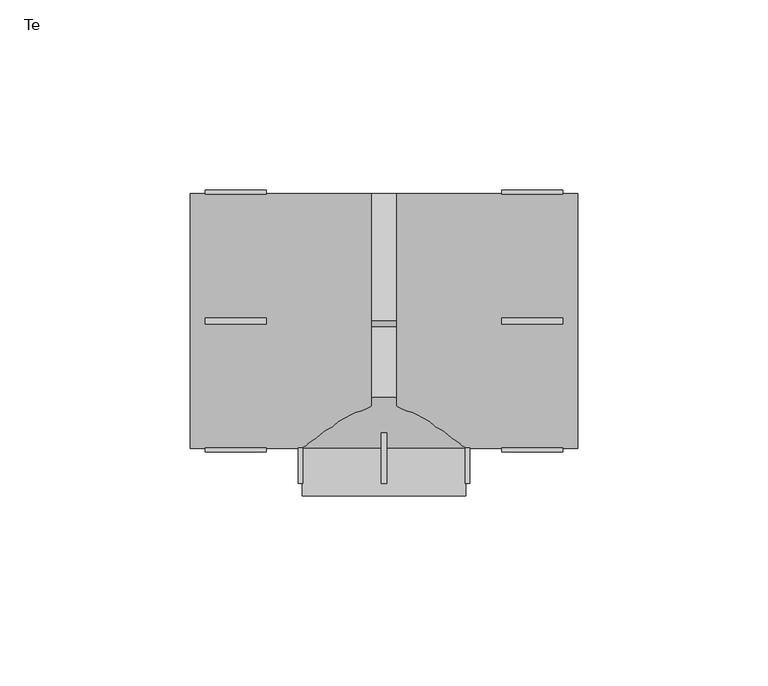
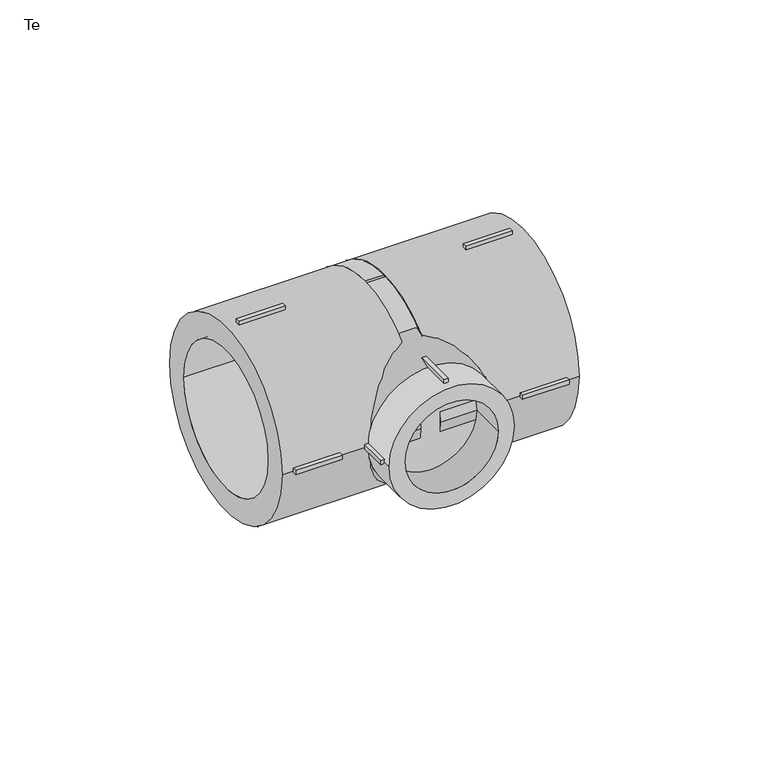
"""IFC4 building model written with IfcOpenShell, lengths in millimetres: pipe fitting geometry, EGB_VASEN_ PPR_Te WXR300_Te reducida WXR310 : Te."""

from ifc_helpers import new_model, si_unit, point, frame, origin, origin_2d, place, context, project, spatial, polyline, circle_curve, trimmed, segment, composite_curve, outline, extrude, source, transform, mapped, element, save
from ifc_brep_helpers import plane_surface, revolved_surface, advanced_brep


def te_cc820296(model_context):
    return source(origin(), model_context, "Body", "SolidModel", [
        extrude(outline(polyline([(-0.75, -29.5), (0.75, -29.5), (0.75, -42.7), (-0.75, -42.7), (-0.75, -29.5)])), frame((0.0, 0.0, 20.5), z_axis=(0.0, 0.0, 1.0), x_axis=(1.0, 0.0, 0.0)), (0.0, 0.0, 1.0), 2.0),
        extrude(outline(polyline([(-0.75, -29.5), (0.75, -29.5), (0.75, -42.7), (-0.75, -42.7), (-0.75, -29.5)])), frame((0.0, 0.0, -22.5), z_axis=(0.0, 0.0, 1.0), x_axis=(1.0, 0.0, 0.0)), (0.0, 0.0, 1.0), 2.0),
        extrude(outline(polyline([(20.5, -29.5), (22.5, -29.5), (22.5, -42.7), (20.5, -42.7), (20.5, -29.5)])), frame((0.0, 0.0, -0.75), z_axis=(0.0, 0.0, 1.0), x_axis=(1.0, 0.0, 0.0)), (0.0, 0.0, 1.0), 1.5),
        extrude(outline(polyline([(-22.5, -29.5), (-20.5, -29.5), (-20.5, -42.7), (-22.5, -42.7), (-22.5, -29.5)])), frame((0.0, 0.0, -0.75), z_axis=(0.0, 0.0, 1.0), x_axis=(1.0, 0.0, 0.0)), (0.0, 0.0, 1.0), 1.5),
        extrude(outline(polyline([(31.0, -0.75), (31.0, 0.75), (47.0, 0.75), (47.0, -0.75), (31.0, -0.75)])), frame((0.0, 0.0, 32.5), z_axis=(0.0, 0.0, 1.0), x_axis=(1.0, 0.0, 0.0)), (0.0, 0.0, 1.0), 2.0),
        extrude(outline(polyline([(31.0, -0.75), (31.0, 0.75), (47.0, 0.75), (47.0, -0.75), (31.0, -0.75)])), frame((0.0, 0.0, -34.5), z_axis=(0.0, 0.0, 1.0), x_axis=(1.0, 0.0, 0.0)), (0.0, 0.0, 1.0), 2.0),
        extrude(outline(polyline([(31.0, 32.5), (31.0, 34.5), (47.0, 34.5), (47.0, 32.5), (31.0, 32.5)])), frame((0.0, 0.0, -0.75), z_axis=(0.0, 0.0, 1.0), x_axis=(1.0, 0.0, 0.0)), (0.0, 0.0, 1.0), 1.5),
        extrude(outline(polyline([(31.0, -34.5), (31.0, -32.5), (47.0, -32.5), (47.0, -34.5), (31.0, -34.5)])), frame((0.0, 0.0, -0.75), z_axis=(0.0, 0.0, 1.0), x_axis=(1.0, 0.0, 0.0)), (0.0, 0.0, 1.0), 1.5),
        extrude(outline(polyline([(-31.0, 0.75), (-31.0, -0.75), (-47.0, -0.75), (-47.0, 0.75), (-31.0, 0.75)])), frame((0.0, 0.0, 32.5), z_axis=(0.0, 0.0, 1.0), x_axis=(1.0, 0.0, 0.0)), (0.0, 0.0, 1.0), 2.0),
        extrude(outline(polyline([(-31.0, 0.75), (-31.0, -0.75), (-47.0, -0.75), (-47.0, 0.75), (-31.0, 0.75)])), frame((0.0, 0.0, -34.5), z_axis=(0.0, 0.0, 1.0), x_axis=(1.0, 0.0, 0.0)), (0.0, 0.0, 1.0), 2.0),
        extrude(outline(polyline([(-31.0, 34.5), (-31.0, 32.5), (-47.0, 32.5), (-47.0, 34.5), (-31.0, 34.5)])), frame((0.0, 0.0, -0.75), z_axis=(0.0, 0.0, 1.0), x_axis=(1.0, 0.0, 0.0)), (0.0, 0.0, 1.0), 1.5),
        extrude(outline(polyline([(-31.0, -32.5), (-31.0, -34.5), (-47.0, -34.5), (-47.0, -32.5), (-31.0, -32.5)])), frame((0.0, 0.0, -0.75), z_axis=(0.0, 0.0, 1.0), x_axis=(1.0, 0.0, 0.0)), (0.0, 0.0, 1.0), 1.5),
        extrude(outline(composite_curve([segment(trimmed(circle_curve(origin_2d(), 21.5), [point((0.0, 21.5))], [point((0.0, -21.5))], False, "CARTESIAN"), True, "CONTINUOUS"), segment(trimmed(circle_curve(origin_2d(), 21.5), [point((0.0, -21.5))], [point((0.0, 21.5))], False, "CARTESIAN"), True, "CONTINUOUS")], self_intersect=False), holes=[composite_curve([segment(trimmed(circle_curve(origin_2d(), 16.0), [point((0.0, 16.0))], [point((0.0, -16.0))], True, "CARTESIAN"), True, "CONTINUOUS"), segment(trimmed(circle_curve(origin_2d(), 16.0), [point((0.0, -16.0))], [point((0.0, 16.0))], True, "CARTESIAN"), True, "CONTINUOUS")], self_intersect=False)]), frame((0.0, -46.0, 0.0), z_axis=(0.0, 1.0, 0.0), x_axis=(0.0, 0.0, 1.0)), (0.0, 0.0, 1.0), 12.5),
        extrude(outline(composite_curve([segment(trimmed(circle_curve(origin_2d(), 33.5), [point((-33.5, 0.0))], [point((33.5, 0.0))], False, "CARTESIAN"), True, "CONTINUOUS"), segment(trimmed(circle_curve(origin_2d(), 33.5), [point((33.5, 0.0))], [point((-33.5, 0.0))], False, "CARTESIAN"), True, "CONTINUOUS")], self_intersect=False), holes=[composite_curve([segment(trimmed(circle_curve(origin_2d(), 25.0), [point((-25.0, 0.0))], [point((25.0, 0.0))], True, "CARTESIAN"), True, "CONTINUOUS"), segment(trimmed(circle_curve(origin_2d(), 25.0), [point((25.0, 0.0))], [point((-25.0, 0.0))], True, "CARTESIAN"), True, "CONTINUOUS")], self_intersect=False)]), frame((3.36, 0.0, 0.0), z_axis=(1.0, 0.0, 0.0), x_axis=(0.0, 1.0, 0.0)), (0.0, 0.0, 1.0), 47.64),
        extrude(outline(composite_curve([segment(trimmed(circle_curve(origin_2d(), 33.5), [point((-33.5, 0.0))], [point((33.5, 0.0))], False, "CARTESIAN"), True, "CONTINUOUS"), segment(trimmed(circle_curve(origin_2d(), 33.5), [point((33.5, 0.0))], [point((-33.5, 0.0))], False, "CARTESIAN"), True, "CONTINUOUS")], self_intersect=False), holes=[composite_curve([segment(trimmed(circle_curve(origin_2d(), 25.0), [point((-25.0, 0.0))], [point((25.0, 0.0))], True, "CARTESIAN"), True, "CONTINUOUS"), segment(trimmed(circle_curve(origin_2d(), 25.0), [point((25.0, 0.0))], [point((-25.0, 0.0))], True, "CARTESIAN"), True, "CONTINUOUS")], self_intersect=False)]), frame((-51.0, 0.0, 0.0), z_axis=(1.0, 0.0, 0.0), x_axis=(0.0, 1.0, 0.0)), (0.0, 0.0, 1.0), 47.64),
        advanced_brep(
        [(33.5, 0.0, 0.0), (-33.5, 0.0, 0.0), (21.5, -33.5, 0.0), (-21.5, -33.5, 0.0)],
        [
            (0, 1, circle_curve(frame((0.0, 0.0, 0.0), z_axis=(0.0, 1.0, 0.0), x_axis=(1.0, 0.0, 0.0)), 33.5)),
            (1, 0, circle_curve(frame((0.0, 0.0, 0.0), z_axis=(0.0, 1.0, 0.0), x_axis=(-1.0, 0.0, 0.0)), 33.5)),
            (2, 3, circle_curve(frame((0.0, -33.5, 0.0), z_axis=(0.0, -1.0, 0.0), x_axis=(-1.0, 0.0, 0.0)), 21.5)),
            (3, 2, circle_curve(frame((0.0, -33.5, 0.0), z_axis=(0.0, -1.0, 0.0), x_axis=(1.0, 0.0, 0.0)), 21.5)),
            (3, 1),
            (0, 2),
        ],
        [
            plane_surface(frame((0.0, 0.0, 0.0), z_axis=(0.0, 1.0, 0.0), x_axis=(0.0, 0.0, -1.0))),
            plane_surface(frame((0.0, -33.5, 0.0), z_axis=(0.0, -1.0, 0.0), x_axis=(0.0, 0.0, -1.0))),
            revolved_surface(polyline([(-21.49999999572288, -33.5, 0.0), (-33.5, 0.0, 0.0)]), (0.0, -93.5208333, 0.0), (0.0, 1.0, 0.0)),
            revolved_surface(polyline([(21.49999999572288, -33.5, 0.0), (33.5, 0.0, 0.0)]), (0.0, -93.5208333, 0.0), (0.0, 1.0, 0.0)),
        ],
        [
            (0, [[1, 2]]),
            (1, [[3, 4]]),
            (2, [[-4, 5, -1, 6]]),
            (3, [[-3, -6, -2, -5]]),
        ],
    ),
        extrude(outline(composite_curve([segment(trimmed(circle_curve(origin_2d(), 33.5), [point((-33.5, 0.0))], [point((33.5, 0.0))], False, "CARTESIAN"), True, "CONTINUOUS"), segment(trimmed(circle_curve(origin_2d(), 33.5), [point((33.5, 0.0))], [point((-33.5, 0.0))], False, "CARTESIAN"), True, "CONTINUOUS")], self_intersect=False)), frame((-3.36, 0.0, 0.0), z_axis=(1.0, 0.0, 0.0), x_axis=(0.0, 1.0, 0.0)), (0.0, 0.0, 1.0), 6.72),
    ])


if __name__ == "__main__":
    model = new_model("IFC4")
    model_context = context("Model", 3, world=origin())
    ifc_project = project(units=[si_unit("LENGTHUNIT", "METRE", prefix="MILLI")], contexts=[model_context])
    site = spatial("IfcSite", under=ifc_project)
    building = spatial("IfcBuilding", under=site)
    placement = place(None, origin())
    te_shape = te_cc820296(model_context)
    element("IfcPipeFitting", 1, ObjectType="EGB_VASEN_ PPR_Te WXR300_Te reducida WXR310 : Te", at=placement, inside=building, context=model_context, shape_type="MappedRepresentation", body=[
        mapped(te_shape, transform((0.0, 0.0, 0.0), x_axis=(1.0, 0.0, 0.0), y_axis=(0.0, 1.0, 0.0), z_axis=(0.0, 0.0, 1.0))),
    ])
    save(model, "model.ifc")
